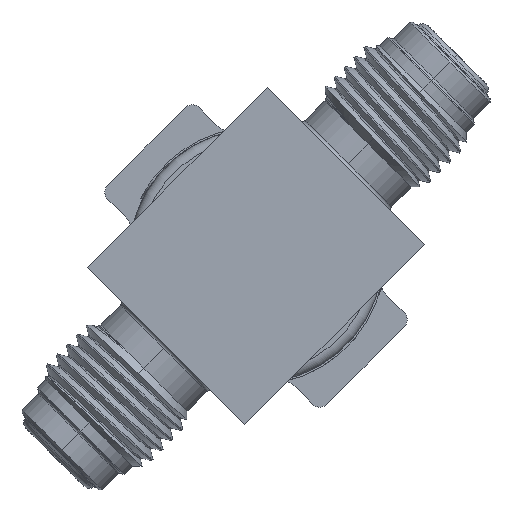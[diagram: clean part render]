
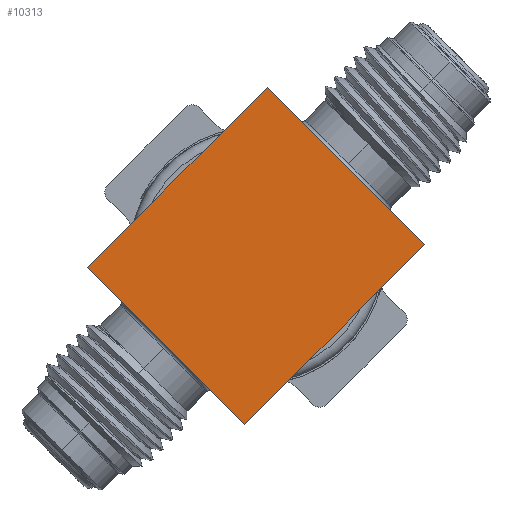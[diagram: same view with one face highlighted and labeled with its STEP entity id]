
A CAD part, front view. The second image highlights one B-rep face of the part: STEP entity #10313.
In plain terms, the highlighted planar face has unit normal (0, -1, 0) as drawn and (0, 0, -1) by its records, which use the part's own axes.
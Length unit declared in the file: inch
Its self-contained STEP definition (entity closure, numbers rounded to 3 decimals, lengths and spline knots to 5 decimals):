
#524 = ORIENTED_EDGE ( 'NONE', *, *, #10376, .T. ) ;
#1334 = VERTEX_POINT ( 'NONE', #9436 ) ;
#2041 = ORIENTED_EDGE ( 'NONE', *, *, #17611, .F. ) ;
#2907 = LINE ( 'NONE', #5946, #10026 ) ;
#2936 = VERTEX_POINT ( 'NONE', #16314 ) ;
#3435 = VECTOR ( 'NONE', #16917, 39.37008 ) ;
#3609 = CARTESIAN_POINT ( 'NONE',  ( -0.5, -0.4375, 0. ) ) ;
#5065 = DIRECTION ( 'NONE',  ( 0., 1., 0. ) ) ;
#5134 = DIRECTION ( 'NONE',  ( 0., 0., -1. ) ) ;
#5946 = CARTESIAN_POINT ( 'NONE',  ( -0.5, 0.4375, 0. ) ) ;
#6677 = LINE ( 'NONE', #16580, #12416 ) ;
#6837 = FACE_OUTER_BOUND ( 'NONE', #14766, .T. ) ;
#9127 = VECTOR ( 'NONE', #14157, 39.37008 ) ;
#9436 = CARTESIAN_POINT ( 'NONE',  ( -0.5, 0.4375, 0. ) ) ;
#9519 = DIRECTION ( 'NONE',  ( -1., 0., 0. ) ) ;
#10026 = VECTOR ( 'NONE', #12938, 39.37008 ) ;
#10313 = ADVANCED_FACE ( 'NONE', ( #6837 ), #17963, .T. ) ;
#10370 = ORIENTED_EDGE ( 'NONE', *, *, #18217, .F. ) ;
#10376 = EDGE_CURVE ( 'NONE', #1334, #2936, #15304, .T. ) ;
#11408 = VERTEX_POINT ( 'NONE', #3609 ) ;
#12416 = VECTOR ( 'NONE', #5065, 39.37008 ) ;
#12693 = LINE ( 'NONE', #17014, #3435 ) ;
#12938 = DIRECTION ( 'NONE',  ( 0., -1., 0. ) ) ;
#13617 = ORIENTED_EDGE ( 'NONE', *, *, #16006, .T. ) ;
#14157 = DIRECTION ( 'NONE',  ( 1., 0., 0. ) ) ;
#14766 = EDGE_LOOP ( 'NONE', ( #2041, #524, #10370, #13617 ) ) ;
#15249 = CARTESIAN_POINT ( 'NONE',  ( 0.5, -0.4375, 0. ) ) ;
#15304 = LINE ( 'NONE', #18567, #9127 ) ;
#15970 = VERTEX_POINT ( 'NONE', #15249 ) ;
#16006 = EDGE_CURVE ( 'NONE', #15970, #11408, #12693, .T. ) ;
#16314 = CARTESIAN_POINT ( 'NONE',  ( 0.5, 0.4375, 0. ) ) ;
#16580 = CARTESIAN_POINT ( 'NONE',  ( 0.5, -0.4375, 0. ) ) ;
#16917 = DIRECTION ( 'NONE',  ( -1., 0., 0. ) ) ;
#17014 = CARTESIAN_POINT ( 'NONE',  ( 0.5, -0.4375, 0. ) ) ;
#17611 = EDGE_CURVE ( 'NONE', #1334, #11408, #2907, .T. ) ;
#17963 = PLANE ( 'NONE',  #18346 ) ;
#18050 = CARTESIAN_POINT ( 'NONE',  ( -0.5, -0.4375, 0. ) ) ;
#18217 = EDGE_CURVE ( 'NONE', #15970, #2936, #6677, .T. ) ;
#18346 = AXIS2_PLACEMENT_3D ( 'NONE', #18050, #5134, #9519 ) ;
#18567 = CARTESIAN_POINT ( 'NONE',  ( -0.5, 0.4375, 0. ) ) ;
